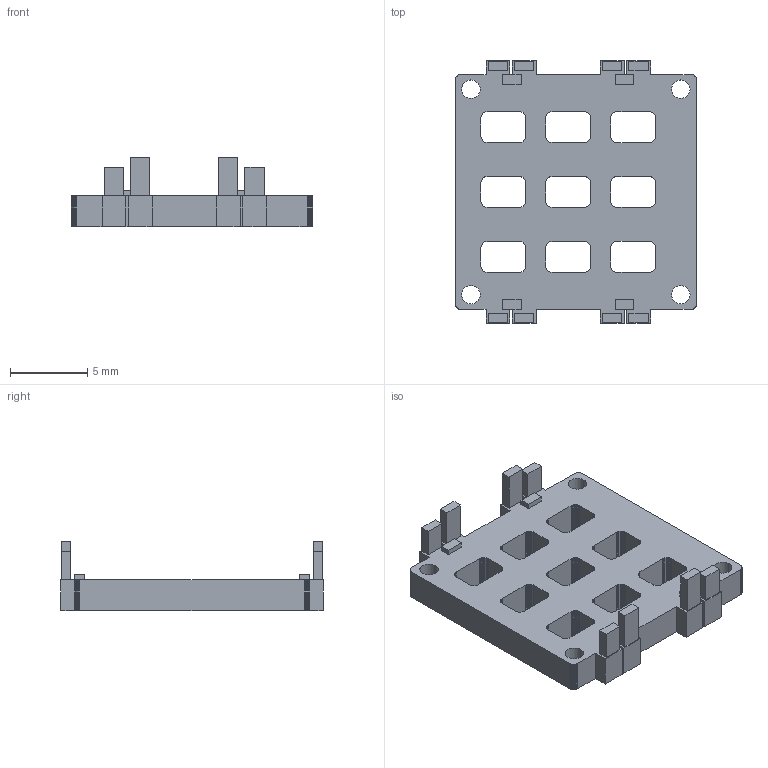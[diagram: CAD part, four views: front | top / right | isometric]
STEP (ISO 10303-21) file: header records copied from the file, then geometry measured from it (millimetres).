
FILE_DESCRIPTION(('Open CASCADE Model'),'2;1');
FILE_NAME('Open CASCADE Shape Model','2026-11-23T03:42:14',('Author'),( 'Open CASCADE'),'Open CASCADE STEP processor 7.9','Open CASCADE 7.9' ,'Unknown');
FILE_SCHEMA(('AUTOMOTIVE_DESIGN { 1 0 10303 214 1 1 1 1 }'));
Length unit declared in the file: millimetre
Products named in the file (1): Open CASCADE STEP translator 7.9 1
Bounding box: 15.6 x 17 x 4.47 mm (x, y, z)
Volume: 399.5 mm3; surface area: 799.4 mm2
Topology: 1 solids, 1 shells, 458 faces, 1332 edges, 888 vertices
Faces by surface type: plane 454, cylinder 4
Full cylindrical faces by diameter (mm): 1.2 x4
Entity records: 32206 total; most frequent: CARTESIAN_POINT 5391, DIRECTION 4914, LINE 3980, VECTOR 3980, ORIENTED_EDGE 2664, PCURVE 2664, DEFINITIONAL_REPRESENTATION 2664, EDGE_CURVE 1332
